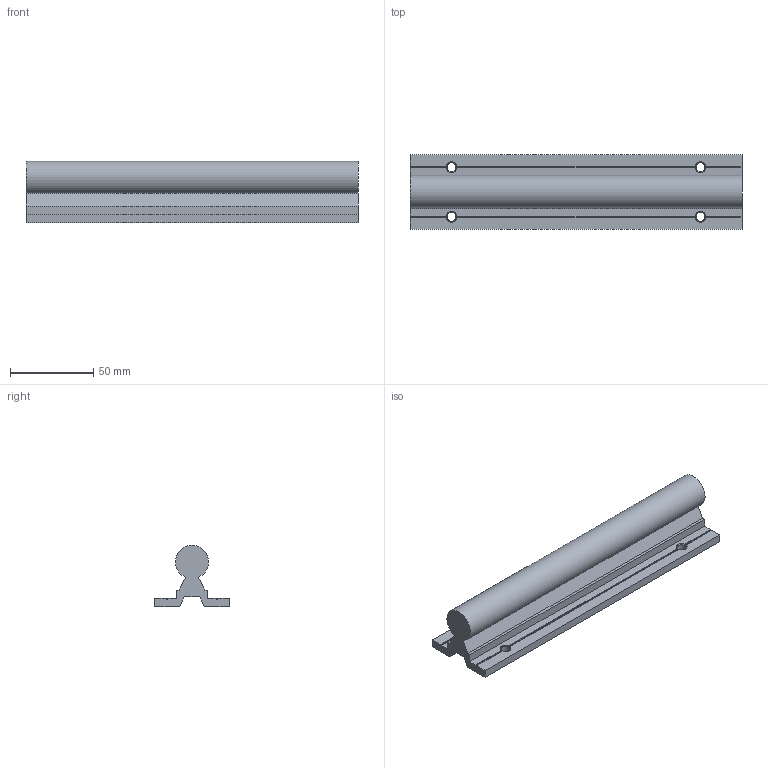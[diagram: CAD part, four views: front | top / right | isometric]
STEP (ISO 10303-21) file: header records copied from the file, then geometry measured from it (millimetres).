
FILE_DESCRIPTION(/* description */ (''),/* implementation_level */ '2;1');
FILE_NAME(/* name */ 'C:\Users\David\Desktop\stepFiles\Profilfuehrung\LFS20x200.stp',/* time_stamp */ '2018-06-24T15:21:49+02:00',/* author */ ('Buskamp'),/* organization */ (''),/* preprocessor_version */ 'ST-DEVELOPER v17',/* originating_system */ 'Autodesk Inventor 2019',/* authorisation */ '');
FILE_SCHEMA (('AUTOMOTIVE_DESIGN { 1 0 10303 214 3 1 1 }'));
Length unit declared in the file: millimetre
Products named in the file (1): Linearführung D20xvariabel
Bounding box: 200 x 45 x 37 mm (x, y, z)
Volume: 129061.5 mm3; surface area: 36638.2 mm2
Topology: 1 solids, 1 shells, 50 faces, 144 edges, 92 vertices
Faces by surface type: plane 37, cone 8, cylinder 5
Full cylindrical faces by diameter (mm): 5.5 x4
Entity records: 1669 total; most frequent: CARTESIAN_POINT 319, ORIENTED_EDGE 288, DIRECTION 268, EDGE_CURVE 144, VERTEX_POINT 92, LINE 90, VECTOR 90, AXIS2_PLACEMENT_3D 89
